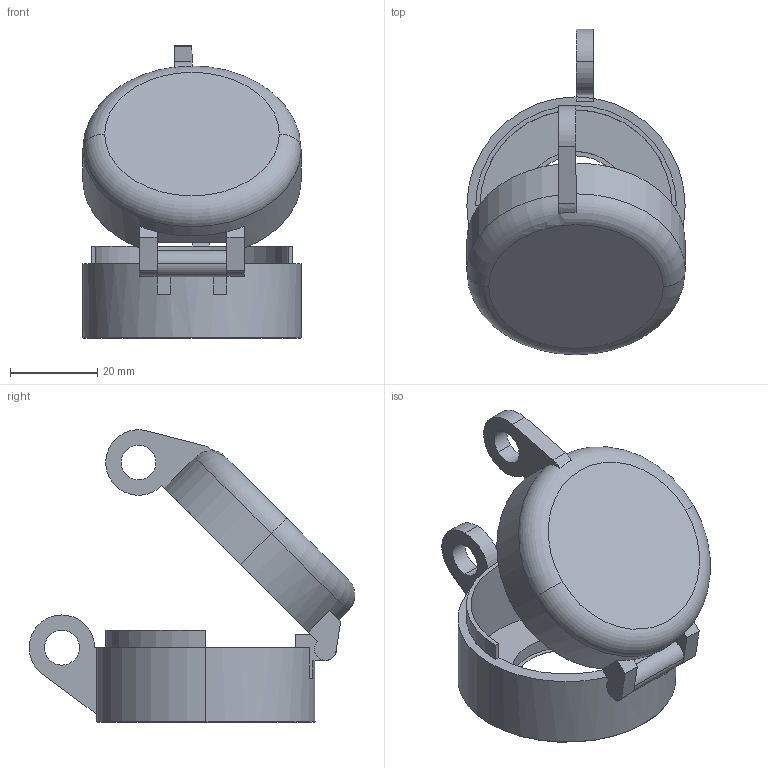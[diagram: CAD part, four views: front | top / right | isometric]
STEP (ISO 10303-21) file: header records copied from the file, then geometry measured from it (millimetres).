
FILE_DESCRIPTION (( 'STEP AP214' ), '1' );
FILE_NAME ('3D 沓麧錪 MTB2-F04.STEP', '2017-04-20T07:49:31', ( 'adm' ), ( 'MICROSOFT' ), 'SwSTEP 2.0', 'SolidWorks 2011', '' );
FILE_SCHEMA (( 'AUTOMOTIVE_DESIGN' ));
Length unit declared in the file: millimetre
Products named in the file (3): 3D 沓麧錪 MTB2-F04; MTB2_F04_瞂贂; MTB2_F04_íèç
Assembly tree (2 placements, depth 2):
  3D 沓麧錪 MTB2-F04
    MTB2_F04_íèç
    MTB2_F04_瞂贂
Bounding box: 50 x 74.58 x 66.95 mm (x, y, z)
Volume: 23131.9 mm3; surface area: 18190.7 mm2
Topology: 3 solids, 3 shells, 86 faces, 222 edges, 144 vertices
Faces by surface type: plane 47, cylinder 34, torus 4, bspline 1
Entity records: 2876 total; most frequent: CARTESIAN_POINT 497, DIRECTION 490, ORIENTED_EDGE 444, EDGE_CURVE 222, AXIS2_PLACEMENT_3D 181, VERTEX_POINT 144, LINE 128, VECTOR 128
